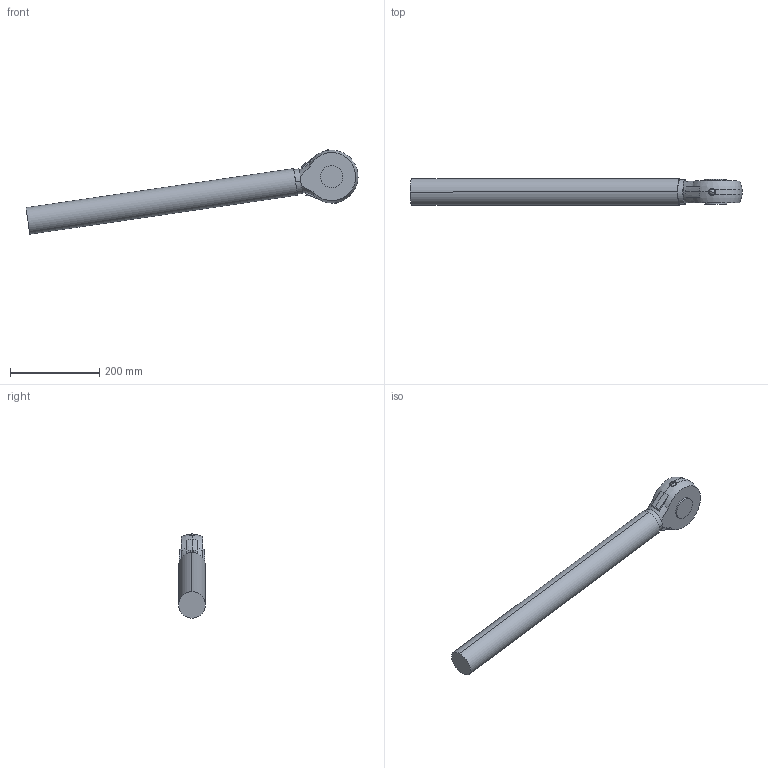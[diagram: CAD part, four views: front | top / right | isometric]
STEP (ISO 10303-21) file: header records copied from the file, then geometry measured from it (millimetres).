
FILE_DESCRIPTION (( 'STEP AP203' ), '1' );
FILE_NAME ('IRB6700-MH6_220-300_IRC5_rev00_ROD_CAD.STEP', '2014-08-27T11:27:42', ( 'ABB' ), ( 'ABB' ), 'SwSTEP 2.0', 'SolidWorks 2012', '' );
FILE_SCHEMA (( 'CONFIG_CONTROL_DESIGN' ));
Length unit declared in the file: millimetre
Products named in the file (1): IRB6700-MH6_220-300_IRC5_rev00_ROD_CAD
Bounding box: 743.62 x 60 x 188.95 mm (x, y, z)
Volume: 2306153.2 mm3; surface area: 158840.3 mm2
Topology: 1 solids, 1 shells, 46 faces, 114 edges, 72 vertices
Faces by surface type: cylinder 18, plane 17, cone 5, torus 4, sphere 2
Entity records: 1539 total; most frequent: CARTESIAN_POINT 379, DIRECTION 244, ORIENTED_EDGE 220, EDGE_CURVE 110, AXIS2_PLACEMENT_3D 109, VERTEX_POINT 72, CIRCLE 62, EDGE_LOOP 52
